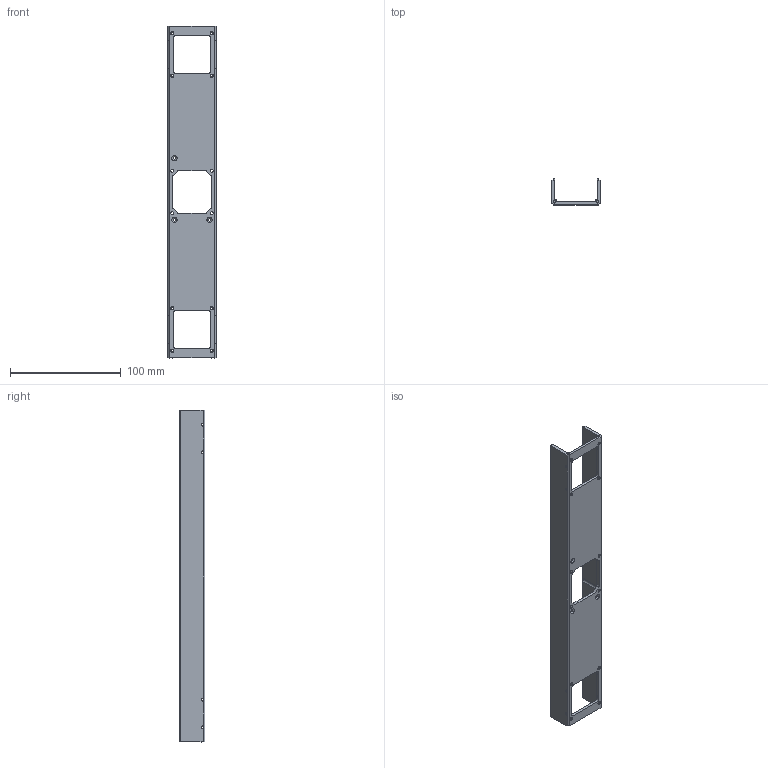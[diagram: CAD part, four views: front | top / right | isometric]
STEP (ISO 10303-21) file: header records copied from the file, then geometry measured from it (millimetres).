
FILE_DESCRIPTION(/* description */ ('VariCAD 2008 3.04 AP-203'),/* implementation_level */ '2;1');
FILE_NAME(/* name */ '0353-10-10',/* time_stamp */ '2009-03-20T16:31:43-06:00',/* author */ (''),/* organization */ (''),/* preprocessor_version */ 'ST-DEVELOPER v12',/* originating_system */ 'VariCAD 2008 3.04; kernel version (20080715)',/* authorisation */ '');
FILE_SCHEMA (('CONFIG_CONTROL_DESIGN'));
Length unit declared in the file: millimetre
Products named in the file (1): Part
Bounding box: 43.5 x 23 x 300 mm (x, y, z)
Volume: 54062.6 mm3; surface area: 46722.9 mm2
Topology: 21 solids, 21 shells, 449 faces, 1231 edges, 780 vertices
Faces by surface type: cylinder 265, plane 98, cone 86
Entity records: 16046 total; most frequent: CARTESIAN_POINT 4472, ORIENTED_EDGE 2462, DIRECTION 2399, EDGE_CURVE 1231, AXIS2_PLACEMENT_3D 946, VERTEX_POINT 780, LINE 507, VECTOR 507
